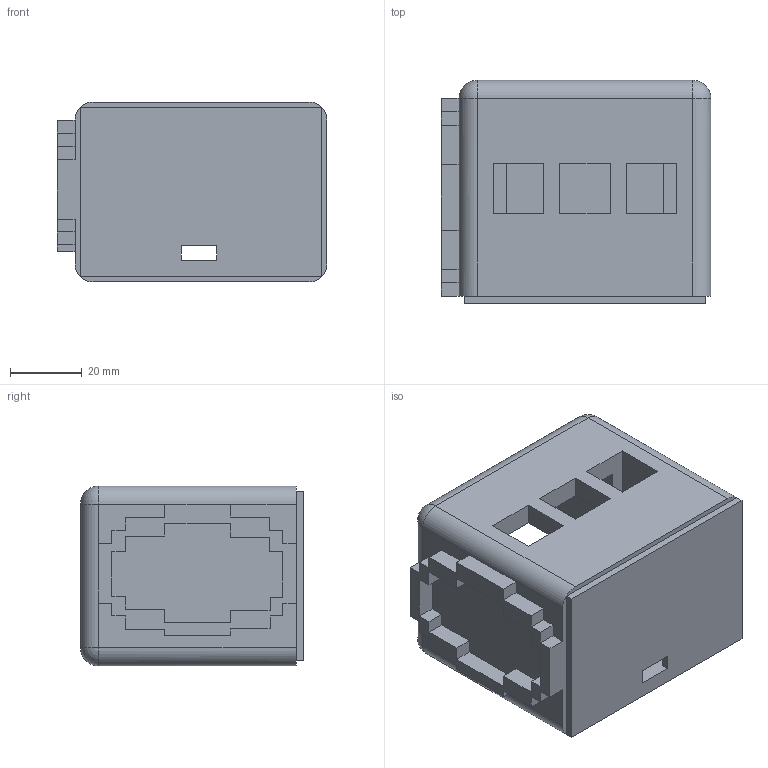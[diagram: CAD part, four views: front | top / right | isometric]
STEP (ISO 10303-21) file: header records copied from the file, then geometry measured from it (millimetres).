
FILE_DESCRIPTION(/* description */ ('STEP AP242 Edition 2','CAx-IF Rec.Pracs.---Representation and Presentation of Product Manufacturing Information (PMI)---4.0---2014-10-13','CAx-IF Rec.Pracs.---3D Tessellated Geometry---0.4---2014-09-14','2;1','CAx-IF Rec.Pracs.---User Defined Attributes---1.5---2016-08-15'),/* implementation_level */ '2;1');
FILE_NAME(/* name */ 'LCD_TFT_1.8_SPI_ST7735 - Part 1',/* time_stamp */ '2026-04-28T02:34:33Z',/* author */ (''),/* organization */ (''),/* preprocessor_version */ 'ST-DEVELOPER v20',/* originating_system */ 'ONSHAPE BY PTC INC, 1.214',/* authorisation */ ' ');
FILE_SCHEMA (('AP242_MANAGED_MODEL_BASED_3D_ENGINEERING_MIM_LF { 1 0 10303 442 3 1 4 }'));
Length unit declared in the file: metre
Products named in the file (1): Part 1
Bounding box: 75 x 62 x 50 mm (x, y, z)
Volume: 112582.2 mm3; surface area: 32463.8 mm2
Topology: 1 solids, 1 shells, 99 faces, 274 edges, 172 vertices
Faces by surface type: plane 87, cylinder 8, sphere 4
Entity records: 3090 total; most frequent: CARTESIAN_POINT 542, ORIENTED_EDGE 540, DIRECTION 490, EDGE_CURVE 270, LINE 250, VECTOR 250, VERTEX_POINT 172, AXIS2_PLACEMENT_3D 120
